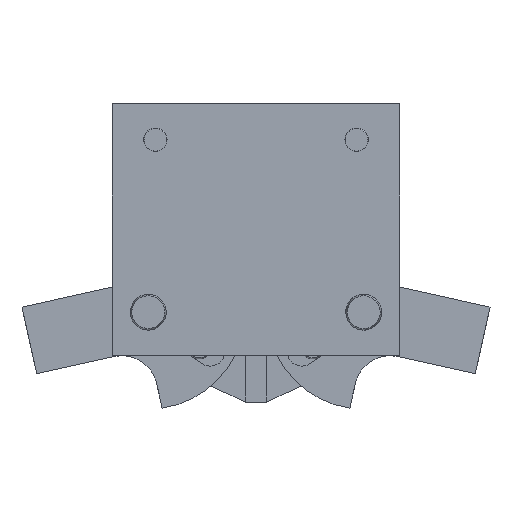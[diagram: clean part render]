
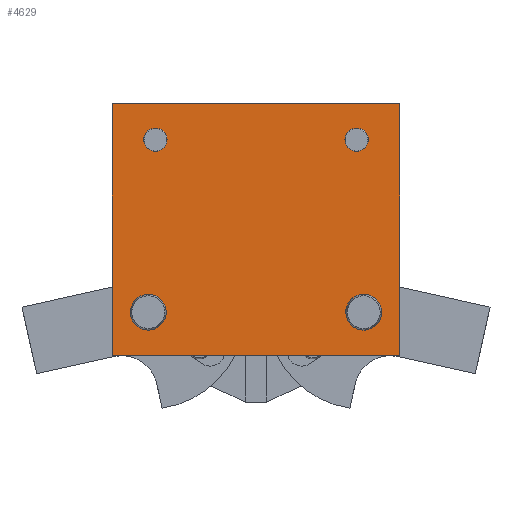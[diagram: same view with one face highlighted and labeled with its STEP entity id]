
A CAD part, left-side view. The second image highlights one B-rep face of the part: STEP entity #4629.
In plain terms, the highlighted planar face has unit normal (-1, 0, 0).
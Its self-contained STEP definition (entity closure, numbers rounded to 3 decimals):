
#4345=CARTESIAN_POINT('',(-12.5,20.0,0.));
#4346=VERTEX_POINT('',#4345);
#4355=CARTESIAN_POINT('',(-12.5,20.0,35.));
#4356=VERTEX_POINT('',#4355);
#4357=CARTESIAN_POINT('',(-12.5,20.0,35.));
#4358=DIRECTION('',(0.0,0.0,-1.0));
#4359=VECTOR('',#4358,35.);
#4360=LINE('',#4357,#4359);
#4361=EDGE_CURVE('',#4356,#4346,#4360,.T.);
#4457=CARTESIAN_POINT('',(-12.5,-20.,0.));
#4458=VERTEX_POINT('',#4457);
#4459=CARTESIAN_POINT('',(-12.5,-20.,35.));
#4460=VERTEX_POINT('',#4459);
#4461=CARTESIAN_POINT('',(-12.5,-20.,0.));
#4462=DIRECTION('',(0.0,0.0,1.0));
#4463=VECTOR('',#4462,35.);
#4464=LINE('',#4461,#4463);
#4465=EDGE_CURVE('',#4458,#4460,#4464,.T.);
#4564=CARTESIAN_POINT('',(-12.5,-20.,35.));
#4565=DIRECTION('',(-1.0,0.0,0.0));
#4566=DIRECTION('',(0.0,0.0,-1.0));
#4567=AXIS2_PLACEMENT_3D('',#4564,#4565,#4566);
#4568=PLANE('',#4567);
#4569=ORIENTED_EDGE('',*,*,#4361,.T.);
#4570=CARTESIAN_POINT('',(-12.5,-20.,0.));
#4571=DIRECTION('',(0.0,1.0,0.0));
#4572=VECTOR('',#4571,40.0);
#4573=LINE('',#4570,#4572);
#4574=EDGE_CURVE('',#4458,#4346,#4573,.T.);
#4575=ORIENTED_EDGE('',*,*,#4574,.F.);
#4576=ORIENTED_EDGE('',*,*,#4465,.T.);
#4577=CARTESIAN_POINT('',(-12.5,-20.,35.));
#4578=DIRECTION('',(0.0,1.0,0.0));
#4579=VECTOR('',#4578,40.0);
#4580=LINE('',#4577,#4579);
#4581=EDGE_CURVE('',#4460,#4356,#4580,.T.);
#4582=ORIENTED_EDGE('',*,*,#4581,.T.);
#4583=EDGE_LOOP('',(#4569,#4575,#4576,#4582));
#4584=FACE_OUTER_BOUND('',#4583,.T.);
#4585=CARTESIAN_POINT('',(-12.5,12.5,6.));
#4586=VERTEX_POINT('',#4585);
#4587=CARTESIAN_POINT('',(-12.5,15.,6.));
#4588=DIRECTION('',(1.0,0.0,0.0));
#4589=DIRECTION('',(0.0,-1.0,0.0));
#4590=AXIS2_PLACEMENT_3D('',#4587,#4588,#4589);
#4591=CIRCLE('',#4590,2.5);
#4592=EDGE_CURVE('',#4586,#4586,#4591,.T.);
#4593=ORIENTED_EDGE('',*,*,#4592,.T.);
#4594=EDGE_LOOP('',(#4593));
#4595=FACE_BOUND('',#4594,.T.);
#4596=CARTESIAN_POINT('',(-12.5,-17.5,6.));
#4597=VERTEX_POINT('',#4596);
#4598=CARTESIAN_POINT('',(-12.5,-15.,6.));
#4599=DIRECTION('',(1.0,0.0,0.0));
#4600=DIRECTION('',(0.0,-1.0,0.0));
#4601=AXIS2_PLACEMENT_3D('',#4598,#4599,#4600);
#4602=CIRCLE('',#4601,2.5);
#4603=EDGE_CURVE('',#4597,#4597,#4602,.T.);
#4604=ORIENTED_EDGE('',*,*,#4603,.T.);
#4605=EDGE_LOOP('',(#4604));
#4606=FACE_BOUND('',#4605,.T.);
#4607=CARTESIAN_POINT('',(-12.5,12.379,30.));
#4608=VERTEX_POINT('',#4607);
#4609=CARTESIAN_POINT('',(-12.5,14.,30.));
#4610=DIRECTION('',(1.0,0.0,0.0));
#4611=DIRECTION('',(0.0,-1.0,0.0));
#4612=AXIS2_PLACEMENT_3D('',#4609,#4610,#4611);
#4613=CIRCLE('',#4612,1.621);
#4614=EDGE_CURVE('',#4608,#4608,#4613,.T.);
#4615=ORIENTED_EDGE('',*,*,#4614,.T.);
#4616=EDGE_LOOP('',(#4615));
#4617=FACE_BOUND('',#4616,.T.);
#4618=CARTESIAN_POINT('',(-12.5,-15.621,30.));
#4619=VERTEX_POINT('',#4618);
#4620=CARTESIAN_POINT('',(-12.5,-14.,30.));
#4621=DIRECTION('',(1.0,0.0,0.0));
#4622=DIRECTION('',(0.0,-1.0,0.0));
#4623=AXIS2_PLACEMENT_3D('',#4620,#4621,#4622);
#4624=CIRCLE('',#4623,1.621);
#4625=EDGE_CURVE('',#4619,#4619,#4624,.T.);
#4626=ORIENTED_EDGE('',*,*,#4625,.T.);
#4627=EDGE_LOOP('',(#4626));
#4628=FACE_BOUND('',#4627,.T.);
#4629=ADVANCED_FACE('',(#4584,#4595,#4606,#4617,#4628),#4568,.T.);
